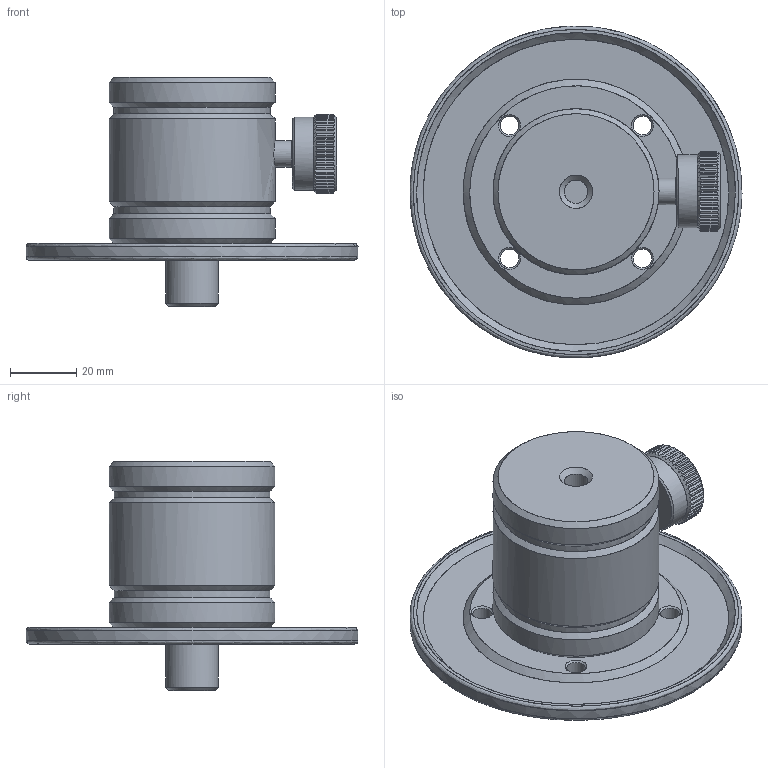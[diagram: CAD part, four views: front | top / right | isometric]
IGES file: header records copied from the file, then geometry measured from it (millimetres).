
Global section: file name: Y:\_LCPD Drawings\13.1 Lightweight Models\9936\LA-9936-0165 XK LAUNCH TRIPOD ASSEMBLY\LA-9936-0165-A XK LAUNCH TRIPOD ASSEMBLY.igs; native system: NX V1926; preprocessor: SIEMENS PLM Software NX 1942; date: 20210406.154024; units: millimetre
Bounding box: 100 x 99.91 x 69 mm (x, y, z)
Surface area: 29620.1 mm2 (no closed solid volume)
Topology: 0 solids, 0 shells, 602 faces, 3781 edges, 3705 vertices
Faces by surface type: bspline 602
